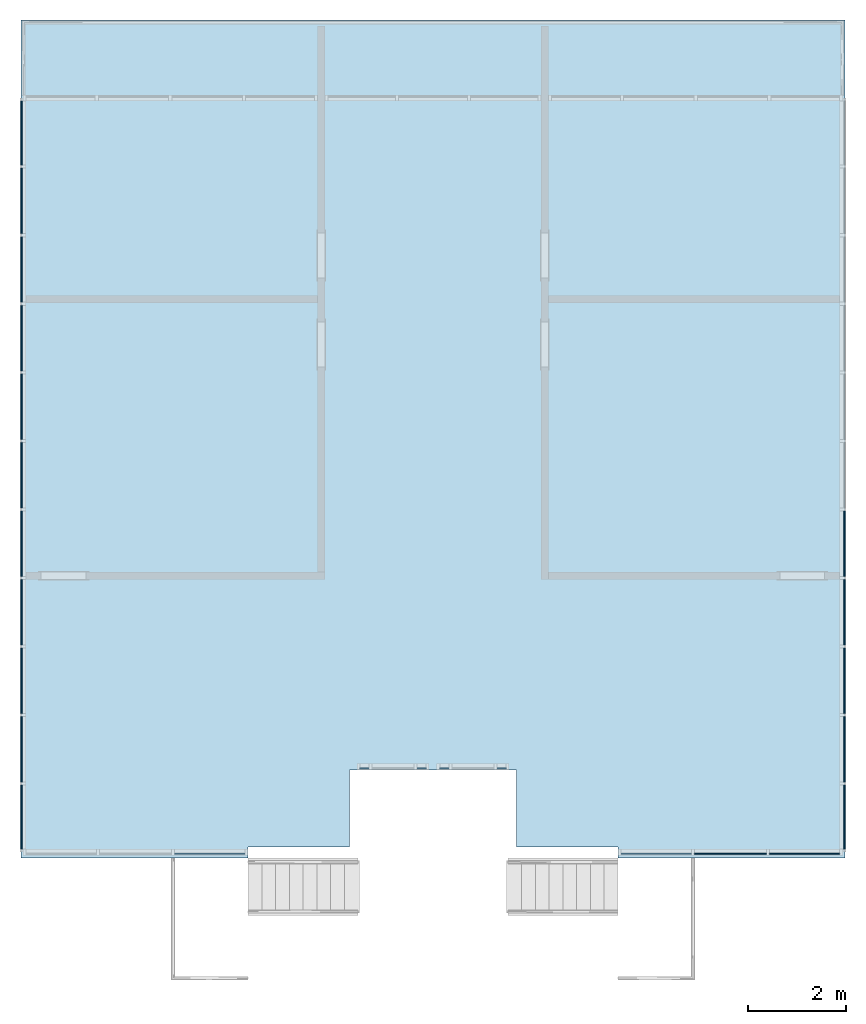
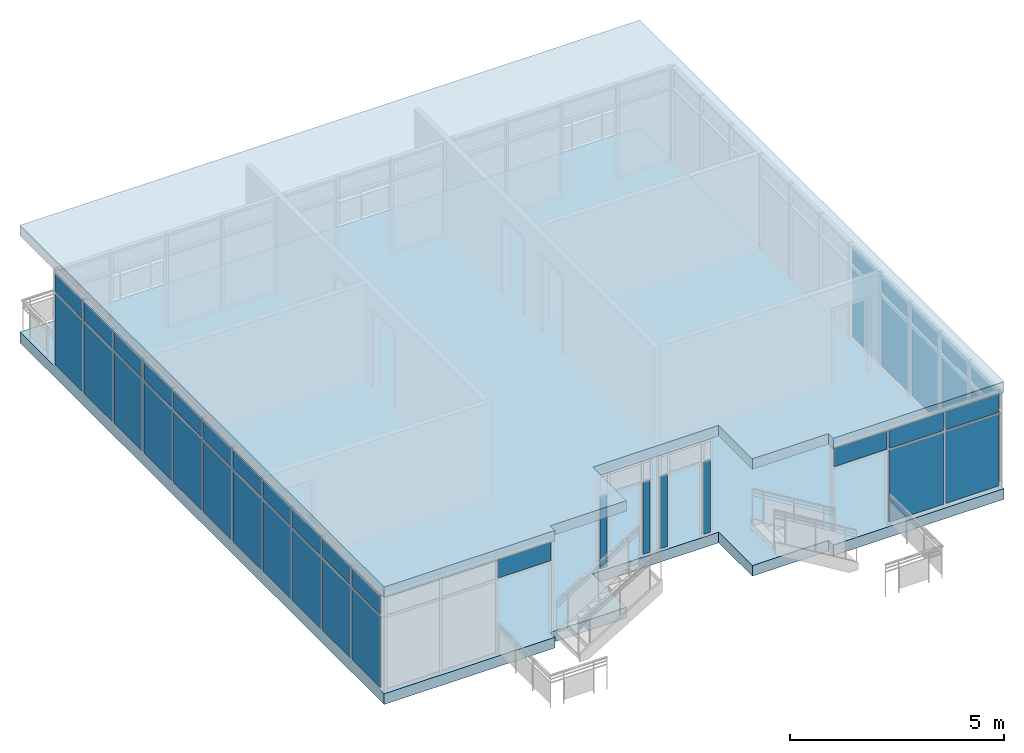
# One storey, part 5 of 11: 42 plates, 2 slabs, 6 elements without a shape of their own.
"""IFC2X3 building model written with IfcOpenShell, lengths in feet."""

from ifc_helpers import new_model, entity, si_unit, converted_unit, derived_unit, direction, frame, frame_2d, origin, place, context, subcontext, project, spatial, polyline, rectangle, outline, extrude, source, transform, mapped, material, layer, layer_set, layer_usage, type_object, type_shapes, element, aggregate, save


model = new_model("IFC2X3")

# Units and contexts
model_context = context("Model", 3, precision=0.0001, world=origin(), true_north=direction((6.12303176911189e-17, 1.0)))
body_context = subcontext(model_context, "Body", "Model", "MODEL_VIEW")
ifc_project = project(units=[converted_unit("LENGTHUNIT", "FOOT", entity("IfcRatioMeasure", 0.3048), si_unit("LENGTHUNIT", "METRE"), dimensions=[1, 0, 0, 0, 0, 0, 0]), converted_unit("AREAUNIT", "SQUARE FOOT", entity("IfcRatioMeasure", 0.09290304), si_unit("AREAUNIT", "SQUARE_METRE"), dimensions=[2, 0, 0, 0, 0, 0, 0]), converted_unit("VOLUMEUNIT", "CUBIC FOOT", entity("IfcRatioMeasure", 0.028316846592), si_unit("VOLUMEUNIT", "CUBIC_METRE"), dimensions=[3, 0, 0, 0, 0, 0, 0]), converted_unit("PLANEANGLEUNIT", "DEGREE", entity("IfcRatioMeasure", 0.0174532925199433), si_unit("PLANEANGLEUNIT", "RADIAN"), dimensions=[0, 0, 0, 0, 0, 0, 0]), si_unit("MASSUNIT", "GRAM", prefix="KILO"), derived_unit("MASSDENSITYUNIT", [(si_unit("MASSUNIT", "GRAM", prefix="KILO"), 1), (si_unit("LENGTHUNIT", "METRE"), -3)]), si_unit("TIMEUNIT", "SECOND"), si_unit("FREQUENCYUNIT", "HERTZ"), si_unit("THERMODYNAMICTEMPERATUREUNIT", "DEGREE_CELSIUS"), derived_unit("THERMALTRANSMITTANCEUNIT", [(si_unit("MASSUNIT", "GRAM", prefix="KILO"), 1), (si_unit("THERMODYNAMICTEMPERATUREUNIT", "KELVIN"), -1), (si_unit("TIMEUNIT", "SECOND"), -3)]), derived_unit("VOLUMETRICFLOWRATEUNIT", [(si_unit("LENGTHUNIT", "METRE"), 3), (si_unit("TIMEUNIT", "SECOND"), -1)]), si_unit("ELECTRICCURRENTUNIT", "AMPERE"), si_unit("ELECTRICVOLTAGEUNIT", "VOLT"), si_unit("POWERUNIT", "WATT"), si_unit("FORCEUNIT", "NEWTON"), si_unit("ILLUMINANCEUNIT", "LUX"), si_unit("LUMINOUSFLUXUNIT", "LUMEN"), si_unit("LUMINOUSINTENSITYUNIT", "CANDELA"), derived_unit("USERDEFINED", [(si_unit("MASSUNIT", "GRAM", prefix="KILO"), -1), (si_unit("LENGTHUNIT", "METRE"), -2), (si_unit("TIMEUNIT", "SECOND"), 3), (si_unit("LUMINOUSFLUXUNIT", "LUMEN"), 1)]), derived_unit("LINEARVELOCITYUNIT", [(si_unit("LENGTHUNIT", "METRE"), 1), (si_unit("TIMEUNIT", "SECOND"), -1)]), si_unit("PRESSUREUNIT", "PASCAL"), derived_unit("USERDEFINED", [(si_unit("LENGTHUNIT", "METRE"), -2), (si_unit("MASSUNIT", "GRAM", prefix="KILO"), 1), (si_unit("TIMEUNIT", "SECOND"), -2)])], contexts=[model_context])

# Site, building, storey
site_placement = place(None, origin())
site = spatial("IfcSite", under=ifc_project, at=site_placement, Name="Default", CompositionType="ELEMENT")
building_placement = place(site_placement, origin())
building = spatial("IfcBuilding", under=site, at=building_placement, CompositionType="ELEMENT")
storey_placement = place(building_placement, frame((0.0, 0.0, 50.0)))
storey = spatial("IfcBuildingStorey", under=building, at=storey_placement, Name="L 9", CompositionType="ELEMENT", Elevation=49.9999999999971)

# Curtain wall, plate
curtain_wall_type = type_object("IfcCurtainWallType", Name="Curtain Wall:Storefront 2", PredefinedType="NOTDEFINED")
curtain_wall_1_placement = place(storey_placement, frame((0.0, 0.0, -50.0)))
curtain_wall_1 = element("IfcCurtainWall", 1, at=curtain_wall_1_placement, inside=storey, type_object=curtain_wall_type, Name="Curtain Wall:Storefront 2", ObjectType="Curtain Wall:Storefront 2")
ifc_material_1 = material(Name="<Unnamed>")
ifc_layer_1 = layer(ifc_material_1, 0.0833333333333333)
ifc_layer_set_1 = layer_set([ifc_layer_1], Name="Curtain Wall:Storefront")
ifc_layer_usage_1 = layer_usage(ifc_layer_set_1, "AXIS3", "POSITIVE", 0.104166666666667)
plate_type_1 = type_object("IfcPlateType", Name="Glazed", PredefinedType="CURTAIN_PANEL", material=ifc_layer_set_1)
shared_shape_1 = source(origin(), body_context, "Body", "SweptSolid", [
    extrude(rectangle(XDim=0.0833333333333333, YDim=4.6875, at=frame_2d((-6.93889390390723e-18, 0.0), x_axis=(1.0, 0.0))), frame((0.0, 0.104166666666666, 0.0), z_axis=(0.0, 0.0, 1.0), x_axis=(0.0, 1.0, 0.0)), (0.0, 0.0, 1.0), 6.6875),
])
type_shapes(plate_type_1, [shared_shape_1])
plate_1_placement = place(curtain_wall_1_placement, frame((-9.2105794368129, -6.94114126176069, 50.2083333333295), z_axis=(0.0, 0.0, 1.0), x_axis=(-1.0, 0.0, 0.0)))
plate_1 = element("IfcPlate", 2, at=plate_1_placement, type_object=plate_type_1, material=ifc_layer_usage_1, Name="System Panel:Glazed", ObjectType="Glazed", context=body_context, shape_type="MappedRepresentation", body=[
    mapped(shared_shape_1, transform((0.0, 0.0, 0.0), scale=1.0)),
])

curtain_wall_2_placement = place(storey_placement, frame((0.0, 0.0, -50.0)))
curtain_wall_2 = element("IfcCurtainWall", 3, at=curtain_wall_2_placement, inside=storey, type_object=curtain_wall_type, Name="Curtain Wall:Storefront 2", ObjectType="Curtain Wall:Storefront 2")
ifc_layer_usage_2 = layer_usage(ifc_layer_set_1, "AXIS3", "POSITIVE", 0.104166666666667)
plate_type_2 = type_object("IfcPlateType", Name="Glazed", PredefinedType="CURTAIN_PANEL", material=ifc_layer_set_1)
shared_shape_2 = source(origin(), body_context, "Body", "SweptSolid", [
    extrude(rectangle(XDim=0.0833333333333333, YDim=4.6875, at=frame_2d((-6.93889390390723e-18, 0.0), x_axis=(1.0, 0.0))), frame((0.0, 0.104166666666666, 0.0), z_axis=(0.0, 0.0, 1.0), x_axis=(0.0, 1.0, 0.0)), (0.0, 0.0, 1.0), 1.6875),
])
type_shapes(plate_type_2, [shared_shape_2])
plate_2_placement = place(curtain_wall_2_placement, frame((-48.8772461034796, -6.94114126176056, 57.1041666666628), z_axis=(0.0, 0.0, 1.0), x_axis=(-1.0, 0.0, 0.0)))
plate_2 = element("IfcPlate", 4, at=plate_2_placement, type_object=plate_type_2, material=ifc_layer_usage_2, Name="System Panel:Glazed", ObjectType="Glazed", context=body_context, shape_type="MappedRepresentation", body=[
    mapped(shared_shape_2, transform((0.0, 0.0, 0.0), scale=1.0)),
])
aggregate(curtain_wall_2, [plate_2])

# Plate
ifc_layer_usage_3 = layer_usage(ifc_layer_set_1, "AXIS3", "POSITIVE", 0.104166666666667)
plate_3_placement = place(curtain_wall_1_placement, frame((-9.2105794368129, -6.94114126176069, 57.1041666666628), z_axis=(0.0, 0.0, 1.0), x_axis=(-1.0, 0.0, 0.0)))
plate_3 = element("IfcPlate", 5, at=plate_3_placement, type_object=plate_type_2, material=ifc_layer_usage_3, Name="System Panel:Glazed", ObjectType="Glazed", context=body_context, shape_type="MappedRepresentation", body=[
    mapped(shared_shape_2, transform((0.0, 0.0, 0.0), scale=1.0)),
])

ifc_layer_usage_4 = layer_usage(ifc_layer_set_1, "AXIS3", "POSITIVE", 0.104166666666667)
plate_4_placement = place(curtain_wall_1_placement, frame((-19.1064127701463, -6.94114126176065, 57.1041666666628), z_axis=(0.0, 0.0, 1.0), x_axis=(-1.0, 0.0, 0.0)))
plate_4 = element("IfcPlate", 6, at=plate_4_placement, type_object=plate_type_2, material=ifc_layer_usage_4, Name="System Panel:Glazed", ObjectType="Glazed", context=body_context, shape_type="MappedRepresentation", body=[
    mapped(shared_shape_2, transform((0.0, 0.0, 0.0), scale=1.0)),
])

ifc_layer_usage_5 = layer_usage(ifc_layer_set_1, "AXIS3", "POSITIVE", 0.104166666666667)
plate_type_3 = type_object("IfcPlateType", Name="Glazed", PredefinedType="CURTAIN_PANEL", material=ifc_layer_set_1)
shared_shape_3 = source(origin(), body_context, "Body", "SweptSolid", [
    extrude(rectangle(XDim=0.0833333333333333, YDim=4.79166666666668, at=frame_2d((-6.93889390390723e-18, 0.0), x_axis=(1.0, 0.0))), frame((0.0, 0.104166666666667, 0.0), z_axis=(0.0, 0.0, 1.0), x_axis=(0.0, 1.0, 0.0)), (0.0, 0.0, 1.0), 1.6875),
])
type_shapes(plate_type_3, [shared_shape_3])
plate_5_placement = place(curtain_wall_1_placement, frame((-14.1584961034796, -6.94114126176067, 57.1041666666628), z_axis=(0.0, 0.0, 1.0), x_axis=(-1.0, 0.0, 0.0)))
plate_5 = element("IfcPlate", 7, at=plate_5_placement, type_object=plate_type_3, material=ifc_layer_usage_5, Name="System Panel:Glazed", ObjectType="Glazed", context=body_context, shape_type="MappedRepresentation", body=[
    mapped(shared_shape_3, transform((0.0, 0.0, 0.0), scale=1.0)),
])

# Curtain wall, plates
curtain_wall_3_placement = place(storey_placement, frame((0.0, 0.0, -50.0)))
curtain_wall_3 = element("IfcCurtainWall", 8, at=curtain_wall_3_placement, inside=storey, type_object=curtain_wall_type, Name="Curtain Wall:Storefront 2", ObjectType="Curtain Wall:Storefront 2")
ifc_layer_usage_6 = layer_usage(ifc_layer_set_1, "AXIS3", "POSITIVE", 0.104166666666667)
plate_type_4 = type_object("IfcPlateType", Name="Glazed", PredefinedType="CURTAIN_PANEL", material=ifc_layer_set_1)
shared_shape_4 = source(origin(), body_context, "Body", "SweptSolid", [
    extrude(rectangle(XDim=0.0833333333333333, YDim=0.604166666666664, at=frame_2d((-6.93889390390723e-18, -2.77555756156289e-17), x_axis=(1.0, 0.0))), frame((0.0, 0.104166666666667, 0.0), z_axis=(0.0, 0.0, 1.0), x_axis=(0.0, 1.0, 0.0)), (0.0, 0.0, 1.0), 6.6875),
])
type_shapes(plate_type_4, [shared_shape_4])
plate_6_placement = place(curtain_wall_3_placement, frame((-34.7522461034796, -1.23280792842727, 50.2083333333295), z_axis=(0.0, 0.0, 1.0), x_axis=(-1.0, 0.0, 0.0)))
plate_6 = element("IfcPlate", 9, at=plate_6_placement, type_object=plate_type_4, material=ifc_layer_usage_6, Name="System Panel:Glazed", ObjectType="Glazed", context=body_context, shape_type="MappedRepresentation", body=[
    mapped(shared_shape_4, transform((0.0, 0.0, 0.0), scale=1.0)),
])
ifc_layer_usage_7 = layer_usage(ifc_layer_set_1, "AXIS3", "POSITIVE", 0.104166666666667)
plate_7_placement = place(curtain_wall_3_placement, frame((-38.5647461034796, -1.23280792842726, 50.2083333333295), z_axis=(0.0, 0.0, 1.0), x_axis=(-1.0, 0.0, 0.0)))
plate_7 = element("IfcPlate", 10, at=plate_7_placement, type_object=plate_type_4, material=ifc_layer_usage_7, Name="System Panel:Glazed", ObjectType="Glazed", context=body_context, shape_type="MappedRepresentation", body=[
    mapped(shared_shape_4, transform((0.0, 0.0, 0.0), scale=1.0)),
])
aggregate(curtain_wall_3, [plate_6, plate_7])

curtain_wall_4_placement = place(storey_placement, frame((0.0, 0.0, -50.0)))
curtain_wall_4 = element("IfcCurtainWall", 11, at=curtain_wall_4_placement, inside=storey, type_object=curtain_wall_type, Name="Curtain Wall:Storefront 2", ObjectType="Curtain Wall:Storefront 2")
ifc_layer_usage_8 = layer_usage(ifc_layer_set_1, "AXIS3", "POSITIVE", 0.104166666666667)
plate_8_placement = place(curtain_wall_4_placement, frame((-29.4189127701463, -1.23280792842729, 50.2083333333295), z_axis=(0.0, 0.0, 1.0), x_axis=(-1.0, 0.0, 0.0)))
plate_8 = element("IfcPlate", 12, at=plate_8_placement, type_object=plate_type_4, material=ifc_layer_usage_8, Name="System Panel:Glazed", ObjectType="Glazed", context=body_context, shape_type="MappedRepresentation", body=[
    mapped(shared_shape_4, transform((0.0, 0.0, 0.0), scale=1.0)),
])
ifc_layer_usage_9 = layer_usage(ifc_layer_set_1, "AXIS3", "POSITIVE", 0.104166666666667)
plate_9_placement = place(curtain_wall_4_placement, frame((-33.2314127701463, -1.23280792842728, 50.2083333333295), z_axis=(0.0, 0.0, 1.0), x_axis=(-1.0, 0.0, 0.0)))
plate_9 = element("IfcPlate", 13, at=plate_9_placement, type_object=plate_type_4, material=ifc_layer_usage_9, Name="System Panel:Glazed", ObjectType="Glazed", context=body_context, shape_type="MappedRepresentation", body=[
    mapped(shared_shape_4, transform((0.0, 0.0, 0.0), scale=1.0)),
])
aggregate(curtain_wall_4, [plate_8, plate_9])

# Plate
ifc_layer_usage_10 = layer_usage(ifc_layer_set_1, "AXIS3", "POSITIVE", 0.104166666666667)
plate_type_5 = type_object("IfcPlateType", Name="Glazed", PredefinedType="CURTAIN_PANEL", material=ifc_layer_set_1)
shared_shape_5 = source(origin(), body_context, "Body", "SweptSolid", [
    extrude(rectangle(XDim=0.0833333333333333, YDim=4.79166666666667, at=frame_2d((-6.93889390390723e-18, 0.0), x_axis=(1.0, 0.0))), frame((0.0, 0.104166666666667, 0.0), z_axis=(0.0, 0.0, 1.0), x_axis=(0.0, 1.0, 0.0)), (0.0, 0.0, 1.0), 6.6875),
])
type_shapes(plate_type_5, [shared_shape_5])
plate_10_placement = place(curtain_wall_1_placement, frame((-14.1584961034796, -6.94114126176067, 50.2083333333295), z_axis=(0.0, 0.0, 1.0), x_axis=(-1.0, 0.0, 0.0)))
plate_10 = element("IfcPlate", 14, at=plate_10_placement, type_object=plate_type_5, material=ifc_layer_usage_10, Name="System Panel:Glazed", ObjectType="Glazed", context=body_context, shape_type="MappedRepresentation", body=[
    mapped(shared_shape_5, transform((0.0, 0.0, 0.0), scale=1.0)),
])

aggregate(curtain_wall_1, [plate_1, plate_10, plate_3, plate_5, plate_4])

# Curtain wall, plates
curtain_wall_5_placement = place(storey_placement, frame((0.0, 0.0, -50.0)))
curtain_wall_5 = element("IfcCurtainWall", 15, at=curtain_wall_5_placement, inside=storey, type_object=curtain_wall_type, Name="Curtain Wall:Storefront 2", ObjectType="Curtain Wall:Storefront 2")
ifc_layer_usage_11 = layer_usage(ifc_layer_set_1, "AXIS3", "POSITIVE", 0.104166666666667)
plate_type_6 = type_object("IfcPlateType", Name="Glazed", PredefinedType="CURTAIN_PANEL", material=ifc_layer_set_1)
shared_shape_6 = source(origin(), body_context, "Body", "SweptSolid", [
    extrude(rectangle(XDim=0.0833333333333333, YDim=4.25946969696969, at=frame_2d((-6.93889390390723e-18, 0.0), x_axis=(1.0, 0.0))), frame((0.0, 0.104166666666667, 0.0), z_axis=(0.0, 0.0, 1.0), x_axis=(0.0, 1.0, 0.0)), (0.0, 0.0, 1.0), 6.6875),
])
type_shapes(plate_type_6, [shared_shape_6])
plate_11_placement = place(curtain_wall_5_placement, frame((-61.3251627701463, -4.60307307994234, 50.2083333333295), z_axis=(0.0, 0.0, 1.0), x_axis=(0.0, 1.0, 0.0)))
plate_11 = element("IfcPlate", 16, at=plate_11_placement, type_object=plate_type_6, material=ifc_layer_usage_11, Name="System Panel:Glazed", ObjectType="Glazed", context=body_context, shape_type="MappedRepresentation", body=[
    mapped(shared_shape_6, transform((0.0, 0.0, 0.0), scale=1.0)),
])
ifc_layer_usage_12 = layer_usage(ifc_layer_set_1, "AXIS3", "POSITIVE", 0.104166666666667)
plate_12_placement = place(curtain_wall_5_placement, frame((-61.3251627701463, 41.0124572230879, 50.2083333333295), z_axis=(0.0, 0.0, 1.0), x_axis=(0.0, 1.0, 0.0)))
plate_12 = element("IfcPlate", 17, at=plate_12_placement, type_object=plate_type_6, material=ifc_layer_usage_12, Name="System Panel:Glazed", ObjectType="Glazed", context=body_context, shape_type="MappedRepresentation", body=[
    mapped(shared_shape_6, transform((0.0, 0.0, 0.0), scale=1.0)),
])

# Curtain wall, plate
curtain_wall_6_placement = place(storey_placement, frame((0.0, 0.0, -50.0)))
curtain_wall_6 = element("IfcCurtainWall", 18, at=curtain_wall_6_placement, inside=storey, type_object=curtain_wall_type, Name="Curtain Wall:Storefront 2", ObjectType="Curtain Wall:Storefront 2")
ifc_layer_usage_13 = layer_usage(ifc_layer_set_1, "AXIS3", "POSITIVE", 0.104166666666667)
plate_13_placement = place(curtain_wall_6_placement, frame((-6.65849610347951, -4.60307307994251, 50.2083333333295), z_axis=(0.0, 0.0, 1.0), x_axis=(0.0, -1.0, 0.0)))
plate_13 = element("IfcPlate", 19, at=plate_13_placement, type_object=plate_type_6, material=ifc_layer_usage_13, Name="System Panel:Glazed", ObjectType="Glazed", context=body_context, shape_type="MappedRepresentation", body=[
    mapped(shared_shape_6, transform((0.0, 0.0, 0.0), scale=1.0)),
])

# Plate
ifc_layer_usage_14 = layer_usage(ifc_layer_set_1, "AXIS3", "POSITIVE", 0.104166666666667)
plate_type_7 = type_object("IfcPlateType", Name="Glazed", PredefinedType="CURTAIN_PANEL", material=ifc_layer_set_1)
shared_shape_7 = source(origin(), body_context, "Body", "SweptSolid", [
    extrude(rectangle(XDim=0.0833333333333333, YDim=4.36363636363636, at=frame_2d((-6.93889390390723e-18, 0.0), x_axis=(1.0, 0.0))), frame((0.0, 0.104166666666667, 0.0), z_axis=(0.0, 0.0, 1.0), x_axis=(0.0, 1.0, 0.0)), (0.0, 0.0, 1.0), 6.6875),
])
type_shapes(plate_type_7, [shared_shape_7])
plate_14_placement = place(curtain_wall_5_placement, frame((-61.3251627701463, -0.0831867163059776, 50.2083333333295), z_axis=(0.0, 0.0, 1.0), x_axis=(0.0, 1.0, 0.0)))
plate_14 = element("IfcPlate", 20, at=plate_14_placement, type_object=plate_type_7, material=ifc_layer_usage_14, Name="System Panel:Glazed", ObjectType="Glazed", context=body_context, shape_type="MappedRepresentation", body=[
    mapped(shared_shape_7, transform((0.0, 0.0, 0.0), scale=1.0)),
])

ifc_layer_usage_15 = layer_usage(ifc_layer_set_1, "AXIS3", "POSITIVE", 0.104166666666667)
plate_15_placement = place(curtain_wall_5_placement, frame((-61.3251627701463, 4.48878298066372, 50.2083333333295), z_axis=(0.0, 0.0, 1.0), x_axis=(0.0, 1.0, 0.0)))
plate_15 = element("IfcPlate", 21, at=plate_15_placement, type_object=plate_type_7, material=ifc_layer_usage_15, Name="System Panel:Glazed", ObjectType="Glazed", context=body_context, shape_type="MappedRepresentation", body=[
    mapped(shared_shape_7, transform((0.0, 0.0, 0.0), scale=1.0)),
])

ifc_layer_usage_16 = layer_usage(ifc_layer_set_1, "AXIS3", "POSITIVE", 0.104166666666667)
plate_16_placement = place(curtain_wall_5_placement, frame((-61.3251627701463, 9.06075267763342, 50.2083333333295), z_axis=(0.0, 0.0, 1.0), x_axis=(0.0, 1.0, 0.0)))
plate_16 = element("IfcPlate", 22, at=plate_16_placement, type_object=plate_type_7, material=ifc_layer_usage_16, Name="System Panel:Glazed", ObjectType="Glazed", context=body_context, shape_type="MappedRepresentation", body=[
    mapped(shared_shape_7, transform((0.0, 0.0, 0.0), scale=1.0)),
])

ifc_layer_usage_17 = layer_usage(ifc_layer_set_1, "AXIS3", "POSITIVE", 0.104166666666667)
plate_17_placement = place(curtain_wall_5_placement, frame((-61.3251627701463, 13.6327223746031, 50.2083333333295), z_axis=(0.0, 0.0, 1.0), x_axis=(0.0, 1.0, 0.0)))
plate_17 = element("IfcPlate", 23, at=plate_17_placement, type_object=plate_type_7, material=ifc_layer_usage_17, Name="System Panel:Glazed", ObjectType="Glazed", context=body_context, shape_type="MappedRepresentation", body=[
    mapped(shared_shape_7, transform((0.0, 0.0, 0.0), scale=1.0)),
])

ifc_layer_usage_18 = layer_usage(ifc_layer_set_1, "AXIS3", "POSITIVE", 0.104166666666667)
plate_18_placement = place(curtain_wall_5_placement, frame((-61.3251627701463, 18.2046920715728, 50.2083333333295), z_axis=(0.0, 0.0, 1.0), x_axis=(0.0, 1.0, 0.0)))
plate_18 = element("IfcPlate", 24, at=plate_18_placement, type_object=plate_type_7, material=ifc_layer_usage_18, Name="System Panel:Glazed", ObjectType="Glazed", context=body_context, shape_type="MappedRepresentation", body=[
    mapped(shared_shape_7, transform((0.0, 0.0, 0.0), scale=1.0)),
])

ifc_layer_usage_19 = layer_usage(ifc_layer_set_1, "AXIS3", "POSITIVE", 0.104166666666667)
plate_19_placement = place(curtain_wall_5_placement, frame((-61.3251627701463, 22.7766617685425, 50.2083333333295), z_axis=(0.0, 0.0, 1.0), x_axis=(0.0, 1.0, 0.0)))
plate_19 = element("IfcPlate", 25, at=plate_19_placement, type_object=plate_type_7, material=ifc_layer_usage_19, Name="System Panel:Glazed", ObjectType="Glazed", context=body_context, shape_type="MappedRepresentation", body=[
    mapped(shared_shape_7, transform((0.0, 0.0, 0.0), scale=1.0)),
])

ifc_layer_usage_20 = layer_usage(ifc_layer_set_1, "AXIS3", "POSITIVE", 0.104166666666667)
plate_20_placement = place(curtain_wall_5_placement, frame((-61.3251627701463, 27.3486314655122, 50.2083333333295), z_axis=(0.0, 0.0, 1.0), x_axis=(0.0, 1.0, 0.0)))
plate_20 = element("IfcPlate", 26, at=plate_20_placement, type_object=plate_type_7, material=ifc_layer_usage_20, Name="System Panel:Glazed", ObjectType="Glazed", context=body_context, shape_type="MappedRepresentation", body=[
    mapped(shared_shape_7, transform((0.0, 0.0, 0.0), scale=1.0)),
])

ifc_layer_usage_21 = layer_usage(ifc_layer_set_1, "AXIS3", "POSITIVE", 0.104166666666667)
plate_21_placement = place(curtain_wall_5_placement, frame((-61.3251627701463, 31.9206011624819, 50.2083333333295), z_axis=(0.0, 0.0, 1.0), x_axis=(0.0, 1.0, 0.0)))
plate_21 = element("IfcPlate", 27, at=plate_21_placement, type_object=plate_type_7, material=ifc_layer_usage_21, Name="System Panel:Glazed", ObjectType="Glazed", context=body_context, shape_type="MappedRepresentation", body=[
    mapped(shared_shape_7, transform((0.0, 0.0, 0.0), scale=1.0)),
])

ifc_layer_usage_22 = layer_usage(ifc_layer_set_1, "AXIS3", "POSITIVE", 0.104166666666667)
plate_22_placement = place(curtain_wall_5_placement, frame((-61.3251627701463, 36.4925708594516, 50.2083333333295), z_axis=(0.0, 0.0, 1.0), x_axis=(0.0, 1.0, 0.0)))
plate_22 = element("IfcPlate", 28, at=plate_22_placement, type_object=plate_type_7, material=ifc_layer_usage_22, Name="System Panel:Glazed", ObjectType="Glazed", context=body_context, shape_type="MappedRepresentation", body=[
    mapped(shared_shape_7, transform((0.0, 0.0, 0.0), scale=1.0)),
])

ifc_layer_usage_23 = layer_usage(ifc_layer_set_1, "AXIS3", "POSITIVE", 0.104166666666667)
plate_23_placement = place(curtain_wall_6_placement, frame((-6.65849610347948, 13.6327223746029, 50.2083333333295), z_axis=(0.0, 0.0, 1.0), x_axis=(0.0, -1.0, 0.0)))
plate_23 = element("IfcPlate", 29, at=plate_23_placement, type_object=plate_type_7, material=ifc_layer_usage_23, Name="System Panel:Glazed", ObjectType="Glazed", context=body_context, shape_type="MappedRepresentation", body=[
    mapped(shared_shape_7, transform((0.0, 0.0, 0.0), scale=1.0)),
])

ifc_layer_usage_24 = layer_usage(ifc_layer_set_1, "AXIS3", "POSITIVE", 0.104166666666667)
plate_24_placement = place(curtain_wall_6_placement, frame((-6.65849610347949, 9.06075267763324, 50.2083333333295), z_axis=(0.0, 0.0, 1.0), x_axis=(0.0, -1.0, 0.0)))
plate_24 = element("IfcPlate", 30, at=plate_24_placement, type_object=plate_type_7, material=ifc_layer_usage_24, Name="System Panel:Glazed", ObjectType="Glazed", context=body_context, shape_type="MappedRepresentation", body=[
    mapped(shared_shape_7, transform((0.0, 0.0, 0.0), scale=1.0)),
])

ifc_layer_usage_25 = layer_usage(ifc_layer_set_1, "AXIS3", "POSITIVE", 0.104166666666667)
plate_25_placement = place(curtain_wall_6_placement, frame((-6.6584961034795, 4.48878298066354, 50.2083333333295), z_axis=(0.0, 0.0, 1.0), x_axis=(0.0, -1.0, 0.0)))
plate_25 = element("IfcPlate", 31, at=plate_25_placement, type_object=plate_type_7, material=ifc_layer_usage_25, Name="System Panel:Glazed", ObjectType="Glazed", context=body_context, shape_type="MappedRepresentation", body=[
    mapped(shared_shape_7, transform((0.0, 0.0, 0.0), scale=1.0)),
])

ifc_layer_usage_26 = layer_usage(ifc_layer_set_1, "AXIS3", "POSITIVE", 0.104166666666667)
plate_26_placement = place(curtain_wall_6_placement, frame((-6.65849610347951, -0.0831867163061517, 50.2083333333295), z_axis=(0.0, 0.0, 1.0), x_axis=(0.0, -1.0, 0.0)))
plate_26 = element("IfcPlate", 32, at=plate_26_placement, type_object=plate_type_7, material=ifc_layer_usage_26, Name="System Panel:Glazed", ObjectType="Glazed", context=body_context, shape_type="MappedRepresentation", body=[
    mapped(shared_shape_7, transform((0.0, 0.0, 0.0), scale=1.0)),
])

ifc_layer_usage_27 = layer_usage(ifc_layer_set_1, "AXIS3", "POSITIVE", 0.104166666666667)
plate_type_8 = type_object("IfcPlateType", Name="Glazed", PredefinedType="CURTAIN_PANEL", material=ifc_layer_set_1)
shared_shape_8 = source(origin(), body_context, "Body", "SweptSolid", [
    extrude(rectangle(XDim=0.0833333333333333, YDim=4.2594696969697, at=frame_2d((-6.93889390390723e-18, 0.0), x_axis=(1.0, 0.0))), frame((0.0, 0.104166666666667, 0.0), z_axis=(0.0, 0.0, 1.0), x_axis=(0.0, 1.0, 0.0)), (0.0, 0.0, 1.0), 1.6875),
])
type_shapes(plate_type_8, [shared_shape_8])
plate_27_placement = place(curtain_wall_5_placement, frame((-61.3251627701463, -4.60307307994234, 57.1041666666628), z_axis=(0.0, 0.0, 1.0), x_axis=(0.0, 1.0, 0.0)))
plate_27 = element("IfcPlate", 33, at=plate_27_placement, type_object=plate_type_8, material=ifc_layer_usage_27, Name="System Panel:Glazed", ObjectType="Glazed", context=body_context, shape_type="MappedRepresentation", body=[
    mapped(shared_shape_8, transform((0.0, 0.0, 0.0), scale=1.0)),
])

ifc_layer_usage_28 = layer_usage(ifc_layer_set_1, "AXIS3", "POSITIVE", 0.104166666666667)
plate_28_placement = place(curtain_wall_5_placement, frame((-61.3251627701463, 41.0124572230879, 57.1041666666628), z_axis=(0.0, 0.0, 1.0), x_axis=(0.0, 1.0, 0.0)))
plate_28 = element("IfcPlate", 34, at=plate_28_placement, type_object=plate_type_8, material=ifc_layer_usage_28, Name="System Panel:Glazed", ObjectType="Glazed", context=body_context, shape_type="MappedRepresentation", body=[
    mapped(shared_shape_8, transform((0.0, 0.0, 0.0), scale=1.0)),
])

ifc_layer_usage_29 = layer_usage(ifc_layer_set_1, "AXIS3", "POSITIVE", 0.104166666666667)
plate_29_placement = place(curtain_wall_6_placement, frame((-6.65849610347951, -4.60307307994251, 57.1041666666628), z_axis=(0.0, 0.0, 1.0), x_axis=(0.0, -1.0, 0.0)))
plate_29 = element("IfcPlate", 35, at=plate_29_placement, type_object=plate_type_8, material=ifc_layer_usage_29, Name="System Panel:Glazed", ObjectType="Glazed", context=body_context, shape_type="MappedRepresentation", body=[
    mapped(shared_shape_8, transform((0.0, 0.0, 0.0), scale=1.0)),
])

ifc_layer_usage_30 = layer_usage(ifc_layer_set_1, "AXIS3", "POSITIVE", 0.104166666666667)
plate_type_9 = type_object("IfcPlateType", Name="Glazed", PredefinedType="CURTAIN_PANEL", material=ifc_layer_set_1)
shared_shape_9 = source(origin(), body_context, "Body", "SweptSolid", [
    extrude(rectangle(XDim=0.0833333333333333, YDim=4.36363636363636, at=frame_2d((-6.93889390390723e-18, 0.0), x_axis=(1.0, 0.0))), frame((0.0, 0.104166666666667, 0.0), z_axis=(0.0, 0.0, 1.0), x_axis=(0.0, 1.0, 0.0)), (0.0, 0.0, 1.0), 1.6875),
])
type_shapes(plate_type_9, [shared_shape_9])
plate_30_placement = place(curtain_wall_5_placement, frame((-61.3251627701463, -0.0831867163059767, 57.1041666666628), z_axis=(0.0, 0.0, 1.0), x_axis=(0.0, 1.0, 0.0)))
plate_30 = element("IfcPlate", 36, at=plate_30_placement, type_object=plate_type_9, material=ifc_layer_usage_30, Name="System Panel:Glazed", ObjectType="Glazed", context=body_context, shape_type="MappedRepresentation", body=[
    mapped(shared_shape_9, transform((0.0, 0.0, 0.0), scale=1.0)),
])

ifc_layer_usage_31 = layer_usage(ifc_layer_set_1, "AXIS3", "POSITIVE", 0.104166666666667)
plate_31_placement = place(curtain_wall_5_placement, frame((-61.3251627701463, 4.48878298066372, 57.1041666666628), z_axis=(0.0, 0.0, 1.0), x_axis=(0.0, 1.0, 0.0)))
plate_31 = element("IfcPlate", 37, at=plate_31_placement, type_object=plate_type_9, material=ifc_layer_usage_31, Name="System Panel:Glazed", ObjectType="Glazed", context=body_context, shape_type="MappedRepresentation", body=[
    mapped(shared_shape_9, transform((0.0, 0.0, 0.0), scale=1.0)),
])

ifc_layer_usage_32 = layer_usage(ifc_layer_set_1, "AXIS3", "POSITIVE", 0.104166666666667)
plate_32_placement = place(curtain_wall_5_placement, frame((-61.3251627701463, 9.06075267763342, 57.1041666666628), z_axis=(0.0, 0.0, 1.0), x_axis=(0.0, 1.0, 0.0)))
plate_32 = element("IfcPlate", 38, at=plate_32_placement, type_object=plate_type_9, material=ifc_layer_usage_32, Name="System Panel:Glazed", ObjectType="Glazed", context=body_context, shape_type="MappedRepresentation", body=[
    mapped(shared_shape_9, transform((0.0, 0.0, 0.0), scale=1.0)),
])

ifc_layer_usage_33 = layer_usage(ifc_layer_set_1, "AXIS3", "POSITIVE", 0.104166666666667)
plate_33_placement = place(curtain_wall_5_placement, frame((-61.3251627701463, 13.6327223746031, 57.1041666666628), z_axis=(0.0, 0.0, 1.0), x_axis=(0.0, 1.0, 0.0)))
plate_33 = element("IfcPlate", 39, at=plate_33_placement, type_object=plate_type_9, material=ifc_layer_usage_33, Name="System Panel:Glazed", ObjectType="Glazed", context=body_context, shape_type="MappedRepresentation", body=[
    mapped(shared_shape_9, transform((0.0, 0.0, 0.0), scale=1.0)),
])

ifc_layer_usage_34 = layer_usage(ifc_layer_set_1, "AXIS3", "POSITIVE", 0.104166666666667)
plate_34_placement = place(curtain_wall_5_placement, frame((-61.3251627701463, 18.2046920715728, 57.1041666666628), z_axis=(0.0, 0.0, 1.0), x_axis=(0.0, 1.0, 0.0)))
plate_34 = element("IfcPlate", 40, at=plate_34_placement, type_object=plate_type_9, material=ifc_layer_usage_34, Name="System Panel:Glazed", ObjectType="Glazed", context=body_context, shape_type="MappedRepresentation", body=[
    mapped(shared_shape_9, transform((0.0, 0.0, 0.0), scale=1.0)),
])

ifc_layer_usage_35 = layer_usage(ifc_layer_set_1, "AXIS3", "POSITIVE", 0.104166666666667)
plate_35_placement = place(curtain_wall_5_placement, frame((-61.3251627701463, 22.7766617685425, 57.1041666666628), z_axis=(0.0, 0.0, 1.0), x_axis=(0.0, 1.0, 0.0)))
plate_35 = element("IfcPlate", 41, at=plate_35_placement, type_object=plate_type_9, material=ifc_layer_usage_35, Name="System Panel:Glazed", ObjectType="Glazed", context=body_context, shape_type="MappedRepresentation", body=[
    mapped(shared_shape_9, transform((0.0, 0.0, 0.0), scale=1.0)),
])

ifc_layer_usage_36 = layer_usage(ifc_layer_set_1, "AXIS3", "POSITIVE", 0.104166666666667)
plate_36_placement = place(curtain_wall_5_placement, frame((-61.3251627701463, 27.3486314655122, 57.1041666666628), z_axis=(0.0, 0.0, 1.0), x_axis=(0.0, 1.0, 0.0)))
plate_36 = element("IfcPlate", 42, at=plate_36_placement, type_object=plate_type_9, material=ifc_layer_usage_36, Name="System Panel:Glazed", ObjectType="Glazed", context=body_context, shape_type="MappedRepresentation", body=[
    mapped(shared_shape_9, transform((0.0, 0.0, 0.0), scale=1.0)),
])

ifc_layer_usage_37 = layer_usage(ifc_layer_set_1, "AXIS3", "POSITIVE", 0.104166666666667)
plate_37_placement = place(curtain_wall_5_placement, frame((-61.3251627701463, 31.9206011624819, 57.1041666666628), z_axis=(0.0, 0.0, 1.0), x_axis=(0.0, 1.0, 0.0)))
plate_37 = element("IfcPlate", 43, at=plate_37_placement, type_object=plate_type_9, material=ifc_layer_usage_37, Name="System Panel:Glazed", ObjectType="Glazed", context=body_context, shape_type="MappedRepresentation", body=[
    mapped(shared_shape_9, transform((0.0, 0.0, 0.0), scale=1.0)),
])

ifc_layer_usage_38 = layer_usage(ifc_layer_set_1, "AXIS3", "POSITIVE", 0.104166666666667)
plate_38_placement = place(curtain_wall_5_placement, frame((-61.3251627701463, 36.4925708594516, 57.1041666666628), z_axis=(0.0, 0.0, 1.0), x_axis=(0.0, 1.0, 0.0)))
plate_38 = element("IfcPlate", 44, at=plate_38_placement, type_object=plate_type_9, material=ifc_layer_usage_38, Name="System Panel:Glazed", ObjectType="Glazed", context=body_context, shape_type="MappedRepresentation", body=[
    mapped(shared_shape_9, transform((0.0, 0.0, 0.0), scale=1.0)),
])

aggregate(curtain_wall_5, [plate_11, plate_14, plate_15, plate_16, plate_17, plate_18, plate_19, plate_20, plate_21, plate_22, plate_12, plate_27, plate_30, plate_31, plate_32, plate_33, plate_34, plate_35, plate_36, plate_37, plate_38, plate_28])

ifc_layer_usage_39 = layer_usage(ifc_layer_set_1, "AXIS3", "POSITIVE", 0.104166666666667)
plate_39_placement = place(curtain_wall_6_placement, frame((-6.65849610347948, 13.6327223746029, 57.1041666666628), z_axis=(0.0, 0.0, 1.0), x_axis=(0.0, -1.0, 0.0)))
plate_39 = element("IfcPlate", 45, at=plate_39_placement, type_object=plate_type_9, material=ifc_layer_usage_39, Name="System Panel:Glazed", ObjectType="Glazed", context=body_context, shape_type="MappedRepresentation", body=[
    mapped(shared_shape_9, transform((0.0, 0.0, 0.0), scale=1.0)),
])

ifc_layer_usage_40 = layer_usage(ifc_layer_set_1, "AXIS3", "POSITIVE", 0.104166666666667)
plate_40_placement = place(curtain_wall_6_placement, frame((-6.65849610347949, 9.06075267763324, 57.1041666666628), z_axis=(0.0, 0.0, 1.0), x_axis=(0.0, -1.0, 0.0)))
plate_40 = element("IfcPlate", 46, at=plate_40_placement, type_object=plate_type_9, material=ifc_layer_usage_40, Name="System Panel:Glazed", ObjectType="Glazed", context=body_context, shape_type="MappedRepresentation", body=[
    mapped(shared_shape_9, transform((0.0, 0.0, 0.0), scale=1.0)),
])

ifc_layer_usage_41 = layer_usage(ifc_layer_set_1, "AXIS3", "POSITIVE", 0.104166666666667)
plate_41_placement = place(curtain_wall_6_placement, frame((-6.6584961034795, 4.48878298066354, 57.1041666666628), z_axis=(0.0, 0.0, 1.0), x_axis=(0.0, -1.0, 0.0)))
plate_41 = element("IfcPlate", 47, at=plate_41_placement, type_object=plate_type_9, material=ifc_layer_usage_41, Name="System Panel:Glazed", ObjectType="Glazed", context=body_context, shape_type="MappedRepresentation", body=[
    mapped(shared_shape_9, transform((0.0, 0.0, 0.0), scale=1.0)),
])

ifc_layer_usage_42 = layer_usage(ifc_layer_set_1, "AXIS3", "POSITIVE", 0.104166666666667)
plate_42_placement = place(curtain_wall_6_placement, frame((-6.65849610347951, -0.0831867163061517, 57.1041666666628), z_axis=(0.0, 0.0, 1.0), x_axis=(0.0, -1.0, 0.0)))
plate_42 = element("IfcPlate", 48, at=plate_42_placement, type_object=plate_type_9, material=ifc_layer_usage_42, Name="System Panel:Glazed", ObjectType="Glazed", context=body_context, shape_type="MappedRepresentation", body=[
    mapped(shared_shape_9, transform((0.0, 0.0, 0.0), scale=1.0)),
])

aggregate(curtain_wall_6, [plate_23, plate_24, plate_25, plate_26, plate_13, plate_39, plate_40, plate_41, plate_42, plate_29])

# Slabs
ifc_material_2 = material(Name="Concrete, Cast-in-Place gray")
ifc_layer_2 = layer(ifc_material_2, 1.0)
ifc_layer_set_2 = layer_set([ifc_layer_2], Name="Floor:Generic - 12\"")
ifc_layer_usage_43 = layer_usage(ifc_layer_set_2, "AXIS3", "POSITIVE", 0.0)
slab_1_placement = place(storey_placement, origin())
element("IfcSlab", 49, at=slab_1_placement, inside=storey, material=ifc_layer_usage_43, Name="Floor:Generic - 12\"", ObjectType="Floor:Generic - 12\"", PredefinedType="FLOOR", context=body_context, shape_type="SweptSolid", body=[
    extrude(outline(polyline([(-10.5416666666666, -27.460237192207), (45.3541666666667, -27.460237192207), (45.3541666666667, 27.460237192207), (-10.5416666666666, 27.460237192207), (-10.5416666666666, 12.3333333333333), (-9.8125000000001, 12.3333333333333), (-9.8125000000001, 5.58333333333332), (-4.64583333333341, 5.58333333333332), (-4.64583333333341, -5.58333333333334), (-9.81250000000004, -5.58333333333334), (-9.81250000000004, -12.3333333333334), (-10.5416666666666, -12.3333333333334), (-10.5416666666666, -27.460237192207)])), frame((-33.9918294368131, 3.20469207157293, 0.0), z_axis=(0.0, 0.0, -1.0), x_axis=(0.0, 1.0, 0.0)), (0.0, 0.0, 1.0), 1.0),
])
ifc_layer_usage_44 = layer_usage(ifc_layer_set_2, "AXIS3", "POSITIVE", 0.0)
slab_2_placement = place(storey_placement, origin())
element("IfcSlab", 50, at=slab_2_placement, inside=storey, material=ifc_layer_usage_44, Name="Floor:Generic - 12\"", ObjectType="Floor:Generic - 12\"", PredefinedType="FLOOR", context=body_context, shape_type="SweptSolid", body=[
    extrude(outline(polyline([(-10.5416666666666, -27.460237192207), (45.3541666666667, -27.460237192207), (45.3541666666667, 27.460237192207), (-10.5416666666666, 27.460237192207), (-10.5416666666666, 12.3333333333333), (-9.8125000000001, 12.3333333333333), (-9.8125000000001, 5.58333333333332), (-4.64583333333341, 5.58333333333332), (-4.64583333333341, -5.58333333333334), (-9.81250000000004, -5.58333333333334), (-9.81250000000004, -12.3333333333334), (-10.5416666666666, -12.3333333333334), (-10.5416666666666, -27.460237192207)])), frame((-33.9918294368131, 3.20469207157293, 10.0), z_axis=(0.0, 0.0, -1.0), x_axis=(0.0, 1.0, 0.0)), (0.0, 0.0, 1.0), 1.0),
])

save(model, "model.ifc")
